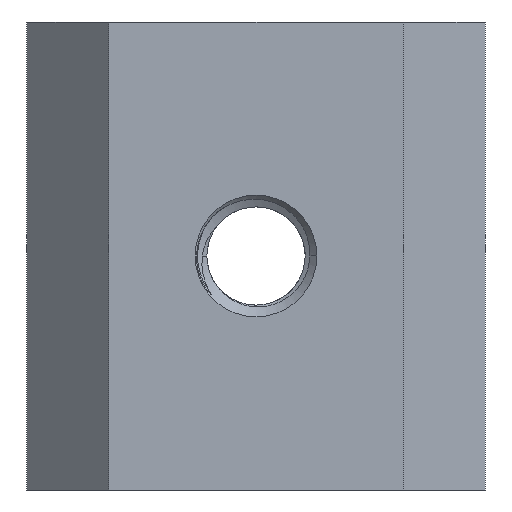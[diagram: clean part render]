
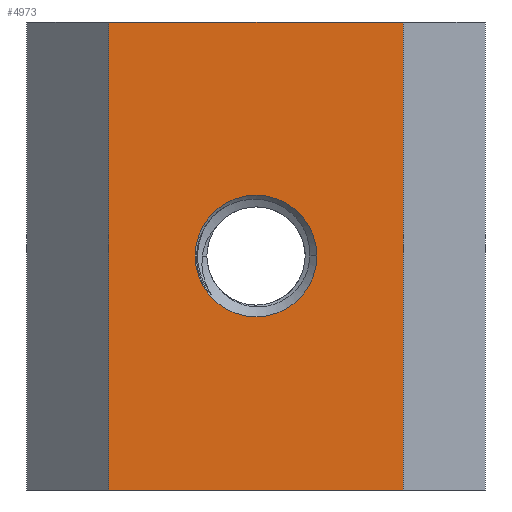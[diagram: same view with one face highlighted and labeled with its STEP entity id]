
A CAD part, front view. The second image highlights one B-rep face of the part: STEP entity #4973.
In plain terms, the highlighted planar face has unit normal (0, -1, 0).
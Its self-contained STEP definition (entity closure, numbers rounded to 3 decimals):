
#73 = ORIENTED_EDGE ( 'NONE', *, *, #276, .F. ) ;
#99 = DIRECTION ( 'NONE',  ( -1., 0., 0. ) ) ;
#165 = FACE_BOUND ( 'NONE', #4250, .T. ) ;
#276 = EDGE_CURVE ( 'NONE', #5387, #1183, #2173, .T. ) ;
#431 = ORIENTED_EDGE ( 'NONE', *, *, #2363, .F. ) ;
#572 = DIRECTION ( 'NONE',  ( 0., 1., 0. ) ) ;
#987 = DIRECTION ( 'NONE',  ( 0., 0., -1. ) ) ;
#1010 = AXIS2_PLACEMENT_3D ( 'NONE', #5547, #2519, #4467 ) ;
#1032 = DIRECTION ( 'NONE',  ( -1., 0., 0. ) ) ;
#1121 = LINE ( 'NONE', #5435, #2312 ) ;
#1183 = VERTEX_POINT ( 'NONE', #3451 ) ;
#1325 = EDGE_CURVE ( 'NONE', #5387, #5807, #3934, .T. ) ;
#1528 = DIRECTION ( 'NONE',  ( 0., 0., -1. ) ) ;
#1630 = VECTOR ( 'NONE', #987, 1000. ) ;
#1720 = VECTOR ( 'NONE', #1528, 1000. ) ;
#1803 = CARTESIAN_POINT ( 'NONE',  ( -6.3, 0., -10. ) ) ;
#2108 = PLANE ( 'NONE',  #3545 ) ;
#2173 = LINE ( 'NONE', #6040, #3835 ) ;
#2231 = DIRECTION ( 'NONE',  ( 1., 0., 0. ) ) ;
#2304 = VERTEX_POINT ( 'NONE', #3265 ) ;
#2312 = VECTOR ( 'NONE', #4042, 1000. ) ;
#2363 = EDGE_CURVE ( 'NONE', #1183, #2304, #3847, .T. ) ;
#2459 = CARTESIAN_POINT ( 'NONE',  ( 0., 0., 0. ) ) ;
#2519 = DIRECTION ( 'NONE',  ( 0., 1., 0. ) ) ;
#2567 = EDGE_CURVE ( 'NONE', #5807, #2304, #1121, .T. ) ;
#3006 = VERTEX_POINT ( 'NONE', #3955 ) ;
#3132 = CIRCLE ( 'NONE', #1010, 2.6 ) ;
#3265 = CARTESIAN_POINT ( 'NONE',  ( 6.3, 0., -10. ) ) ;
#3313 = CARTESIAN_POINT ( 'NONE',  ( -6.3, 0., 10. ) ) ;
#3370 = DIRECTION ( 'NONE',  ( 0., 1., 0. ) ) ;
#3451 = CARTESIAN_POINT ( 'NONE',  ( 6.3, 0., 10. ) ) ;
#3532 = EDGE_CURVE ( 'NONE', #3006, #4121, #3132, .T. ) ;
#3545 = AXIS2_PLACEMENT_3D ( 'NONE', #4461, #572, #99 ) ;
#3559 = ORIENTED_EDGE ( 'NONE', *, *, #3981, .T. ) ;
#3716 = CARTESIAN_POINT ( 'NONE',  ( -6.3, 0., 10. ) ) ;
#3835 = VECTOR ( 'NONE', #2231, 1000. ) ;
#3847 = LINE ( 'NONE', #5312, #1630 ) ;
#3934 = LINE ( 'NONE', #3313, #1720 ) ;
#3955 = CARTESIAN_POINT ( 'NONE',  ( 2.6, 0., 0. ) ) ;
#3981 = EDGE_CURVE ( 'NONE', #4121, #3006, #4658, .T. ) ;
#4042 = DIRECTION ( 'NONE',  ( 1., 0., 0. ) ) ;
#4121 = VERTEX_POINT ( 'NONE', #5909 ) ;
#4250 = EDGE_LOOP ( 'NONE', ( #4439, #3559 ) ) ;
#4439 = ORIENTED_EDGE ( 'NONE', *, *, #3532, .T. ) ;
#4461 = CARTESIAN_POINT ( 'NONE',  ( -6.3, 0., 10. ) ) ;
#4467 = DIRECTION ( 'NONE',  ( -1., 0., 0. ) ) ;
#4658 = CIRCLE ( 'NONE', #5480, 2.6 ) ;
#4771 = ORIENTED_EDGE ( 'NONE', *, *, #2567, .T. ) ;
#4859 = FACE_OUTER_BOUND ( 'NONE', #5268, .T. ) ;
#4973 = ADVANCED_FACE ( 'NONE', ( #165, #4859 ), #2108, .F. ) ;
#5018 = ORIENTED_EDGE ( 'NONE', *, *, #1325, .T. ) ;
#5268 = EDGE_LOOP ( 'NONE', ( #4771, #431, #73, #5018 ) ) ;
#5312 = CARTESIAN_POINT ( 'NONE',  ( 6.3, 0., 10. ) ) ;
#5387 = VERTEX_POINT ( 'NONE', #3716 ) ;
#5435 = CARTESIAN_POINT ( 'NONE',  ( -6.3, 0., -10. ) ) ;
#5480 = AXIS2_PLACEMENT_3D ( 'NONE', #2459, #3370, #1032 ) ;
#5547 = CARTESIAN_POINT ( 'NONE',  ( 0., 0., 0. ) ) ;
#5807 = VERTEX_POINT ( 'NONE', #1803 ) ;
#5909 = CARTESIAN_POINT ( 'NONE',  ( -2.6, 0., 0. ) ) ;
#6040 = CARTESIAN_POINT ( 'NONE',  ( -6.3, 0., 10. ) ) ;
